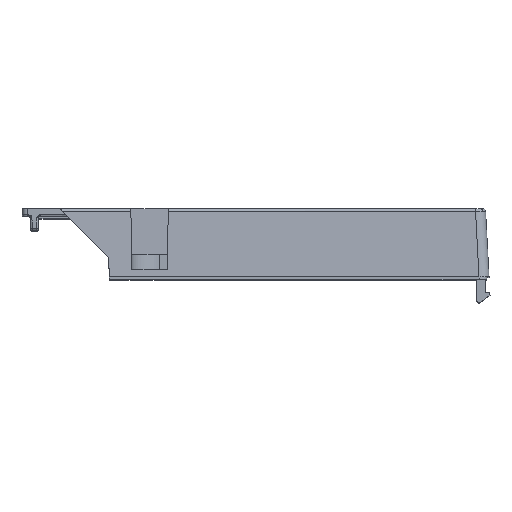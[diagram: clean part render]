
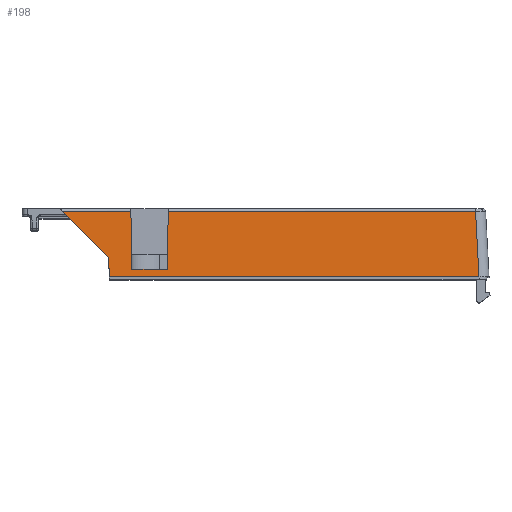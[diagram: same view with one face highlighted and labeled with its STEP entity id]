
A CAD part, top view. The second image highlights one B-rep face of the part: STEP entity #198.
In plain terms, the highlighted planar face has unit normal (0, 0.052, 0.999).
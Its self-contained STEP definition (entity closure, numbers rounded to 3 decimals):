
#12 = VERTEX_POINT ( 'NONE', #6171 ) ;
#114 = CARTESIAN_POINT ( 'NONE',  ( 22.628, 0.5, 28.8 ) ) ;
#198 = ADVANCED_FACE ( 'NONE', ( #6597 ), #1182, .T. ) ;
#461 = VECTOR ( 'NONE', #799, 1000. ) ;
#504 = VERTEX_POINT ( 'NONE', #5626 ) ;
#532 = LINE ( 'NONE', #114, #3849 ) ;
#591 = EDGE_CURVE ( 'NONE', #3302, #12, #4626, .T. ) ;
#666 = VECTOR ( 'NONE', #7535, 1000. ) ;
#799 = DIRECTION ( 'NONE',  ( 0.017, -0.998, 0.052 ) ) ;
#924 = CARTESIAN_POINT ( 'NONE',  ( 4.5, 2., 28.721 ) ) ;
#1069 = VERTEX_POINT ( 'NONE', #7414 ) ;
#1141 = VECTOR ( 'NONE', #2518, 1000. ) ;
#1157 = DIRECTION ( 'NONE',  ( 0., -0.999, 0.052 ) ) ;
#1182 = PLANE ( 'NONE',  #7752 ) ;
#1187 = DIRECTION ( 'NONE',  ( 0., 0.052, 0.999 ) ) ;
#1302 = EDGE_CURVE ( 'NONE', #1069, #504, #532, .T. ) ;
#1324 = VECTOR ( 'NONE', #3750, 1000. ) ;
#1455 = CARTESIAN_POINT ( 'NONE',  ( 73.287, 0.5, 28.8 ) ) ;
#1871 = CARTESIAN_POINT ( 'NONE',  ( 22.628, 13.787, 28.104 ) ) ;
#2031 = CARTESIAN_POINT ( 'NONE',  ( 11.701, 13.526, 28.117 ) ) ;
#2052 = ORIENTED_EDGE ( 'NONE', *, *, #5416, .F. ) ;
#2078 = CARTESIAN_POINT ( 'NONE',  ( 72.604, 13.526, 28.117 ) ) ;
#2134 = LINE ( 'NONE', #4524, #461 ) ;
#2236 = VECTOR ( 'NONE', #6058, 1000. ) ;
#2361 = CARTESIAN_POINT ( 'NONE',  ( -9.236, 13.526, 28.117 ) ) ;
#2518 = DIRECTION ( 'NONE',  ( -0.017, -0.998, 0.052 ) ) ;
#2626 = CARTESIAN_POINT ( 'NONE',  ( 22.628, 2., 28.721 ) ) ;
#2635 = LINE ( 'NONE', #2361, #2236 ) ;
#2736 = CARTESIAN_POINT ( 'NONE',  ( -0.076, 4.366, 28.597 ) ) ;
#2999 = VERTEX_POINT ( 'NONE', #3893 ) ;
#3200 = ORIENTED_EDGE ( 'NONE', *, *, #4542, .T. ) ;
#3241 = DIRECTION ( 'NONE',  ( 1., 0., 0. ) ) ;
#3302 = VERTEX_POINT ( 'NONE', #3441 ) ;
#3441 = CARTESIAN_POINT ( 'NONE',  ( -9.236, 13.526, 28.117 ) ) ;
#3722 = CARTESIAN_POINT ( 'NONE',  ( -9.795, 13.526, 28.117 ) ) ;
#3750 = DIRECTION ( 'NONE',  ( 1., 0., 0. ) ) ;
#3798 = ORIENTED_EDGE ( 'NONE', *, *, #1302, .T. ) ;
#3843 = DIRECTION ( 'NONE',  ( 1., 0., 0. ) ) ;
#3849 = VECTOR ( 'NONE', #3843, 1000. ) ;
#3855 = CARTESIAN_POINT ( 'NONE',  ( -18.082, 13.526, 28.117 ) ) ;
#3869 = VECTOR ( 'NONE', #4543, 1000. ) ;
#3893 = CARTESIAN_POINT ( 'NONE',  ( 11.701, 13.526, 28.117 ) ) ;
#4059 = LINE ( 'NONE', #1455, #3869 ) ;
#4140 = EDGE_CURVE ( 'NONE', #7399, #12, #5598, .T. ) ;
#4435 = LINE ( 'NONE', #3855, #5877 ) ;
#4441 = EDGE_LOOP ( 'NONE', ( #7749, #3200, #5476, #3798, #7914, #2052, #6898, #6298, #6092 ) ) ;
#4524 = CARTESIAN_POINT ( 'NONE',  ( -0.076, 4.366, 28.597 ) ) ;
#4542 = EDGE_CURVE ( 'NONE', #3302, #6820, #2635, .T. ) ;
#4543 = DIRECTION ( 'NONE',  ( -0.052, 0.997, -0.052 ) ) ;
#4626 = LINE ( 'NONE', #3722, #1324 ) ;
#4754 = CARTESIAN_POINT ( 'NONE',  ( 11.5, 2., 28.721 ) ) ;
#4799 = EDGE_CURVE ( 'NONE', #6820, #1069, #2134, .T. ) ;
#4894 = EDGE_CURVE ( 'NONE', #2999, #7490, #7598, .T. ) ;
#4969 = EDGE_CURVE ( 'NONE', #504, #4971, #4059, .T. ) ;
#4971 = VERTEX_POINT ( 'NONE', #2078 ) ;
#5416 = EDGE_CURVE ( 'NONE', #2999, #4971, #4435, .T. ) ;
#5476 = ORIENTED_EDGE ( 'NONE', *, *, #4799, .T. ) ;
#5598 = LINE ( 'NONE', #6863, #666 ) ;
#5626 = CARTESIAN_POINT ( 'NONE',  ( 73.287, 0.5, 28.8 ) ) ;
#5630 = EDGE_CURVE ( 'NONE', #7490, #7399, #6174, .T. ) ;
#5877 = VECTOR ( 'NONE', #3241, 1000. ) ;
#6058 = DIRECTION ( 'NONE',  ( 0.707, -0.707, 0.037 ) ) ;
#6092 = ORIENTED_EDGE ( 'NONE', *, *, #4140, .T. ) ;
#6171 = CARTESIAN_POINT ( 'NONE',  ( 4.299, 13.526, 28.117 ) ) ;
#6174 = LINE ( 'NONE', #2626, #7688 ) ;
#6298 = ORIENTED_EDGE ( 'NONE', *, *, #5630, .T. ) ;
#6597 = FACE_OUTER_BOUND ( 'NONE', #4441, .T. ) ;
#6820 = VERTEX_POINT ( 'NONE', #2736 ) ;
#6863 = CARTESIAN_POINT ( 'NONE',  ( 4.5, 2., 28.721 ) ) ;
#6898 = ORIENTED_EDGE ( 'NONE', *, *, #4894, .T. ) ;
#6962 = DIRECTION ( 'NONE',  ( -1., 0., 0. ) ) ;
#7399 = VERTEX_POINT ( 'NONE', #924 ) ;
#7414 = CARTESIAN_POINT ( 'NONE',  ( -0.009, 0.5, 28.8 ) ) ;
#7490 = VERTEX_POINT ( 'NONE', #4754 ) ;
#7535 = DIRECTION ( 'NONE',  ( -0.017, 0.998, -0.052 ) ) ;
#7598 = LINE ( 'NONE', #2031, #1141 ) ;
#7688 = VECTOR ( 'NONE', #6962, 1000. ) ;
#7749 = ORIENTED_EDGE ( 'NONE', *, *, #591, .F. ) ;
#7752 = AXIS2_PLACEMENT_3D ( 'NONE', #1871, #1187, #1157 ) ;
#7914 = ORIENTED_EDGE ( 'NONE', *, *, #4969, .T. ) ;
